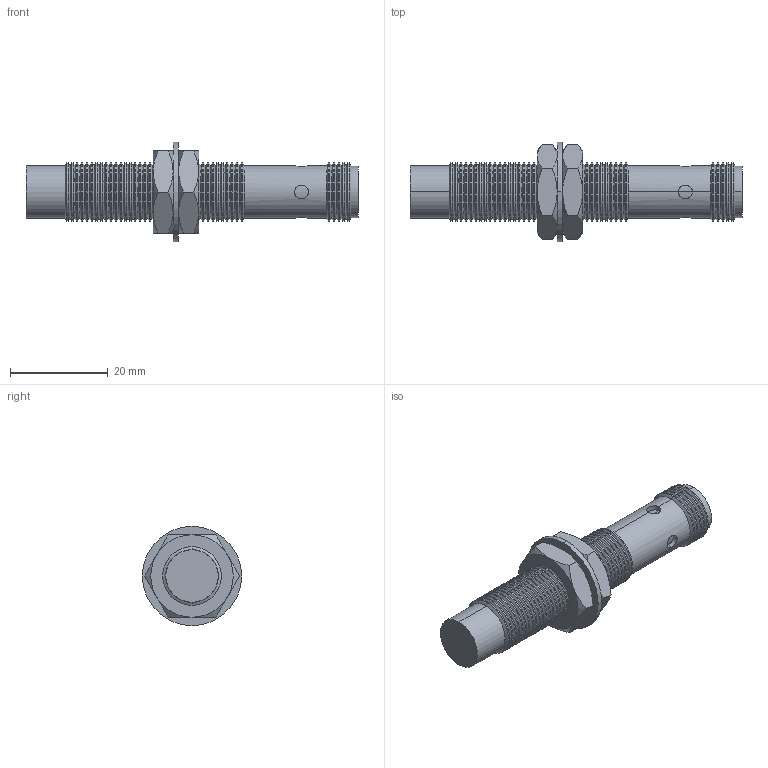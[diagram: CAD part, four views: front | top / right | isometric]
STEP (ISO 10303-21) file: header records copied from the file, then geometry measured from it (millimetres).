
FILE_DESCRIPTION (( 'STEP AP203' ), '1' );
FILE_NAME ('90-29417-056.STEP', '2015-11-14T18:39:53', ( 'Sam' ), ( 'Spade' ), 'SwSTEP 2.0', 'SolidWorks 2002296', '' );
FILE_SCHEMA (( 'CONFIG_CONTROL_DESIGN' ));
Length unit declared in the file: inch
Products named in the file (11): 90-29417-056; Imported; Imported3; Imported2; Imported1; Imported6; Imported5; Imported4; Imported9; Imported8; Imported7
Assembly tree (10 placements, depth 2):
  90-29417-056
    Imported6
    Imported7
    Imported2
    Imported5
    Imported4
    Imported1
    Imported
    Imported3
    Imported8
    Imported9
Bounding box: 67.94 x 20.32 x 20.32 mm (x, y, z)
Volume: 7692.1 mm3; surface area: 6866.3 mm2
Topology: 10 solids, 10 shells, 447 faces, 1055 edges, 623 vertices
Faces by surface type: cone 228, cylinder 139, plane 74, bspline 6
Entity records: 14462 total; most frequent: CARTESIAN_POINT 2790, DIRECTION 2399, ORIENTED_EDGE 2098, EDGE_CURVE 1049, AXIS2_PLACEMENT_3D 960, VERTEX_POINT 623, CIRCLE 506, LINE 479
